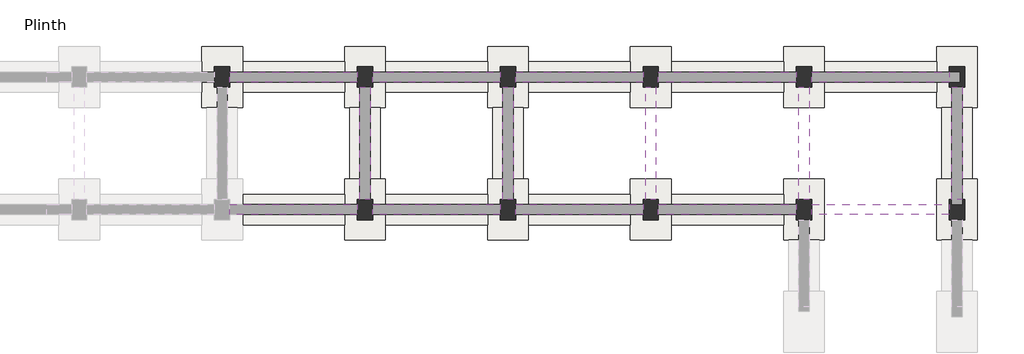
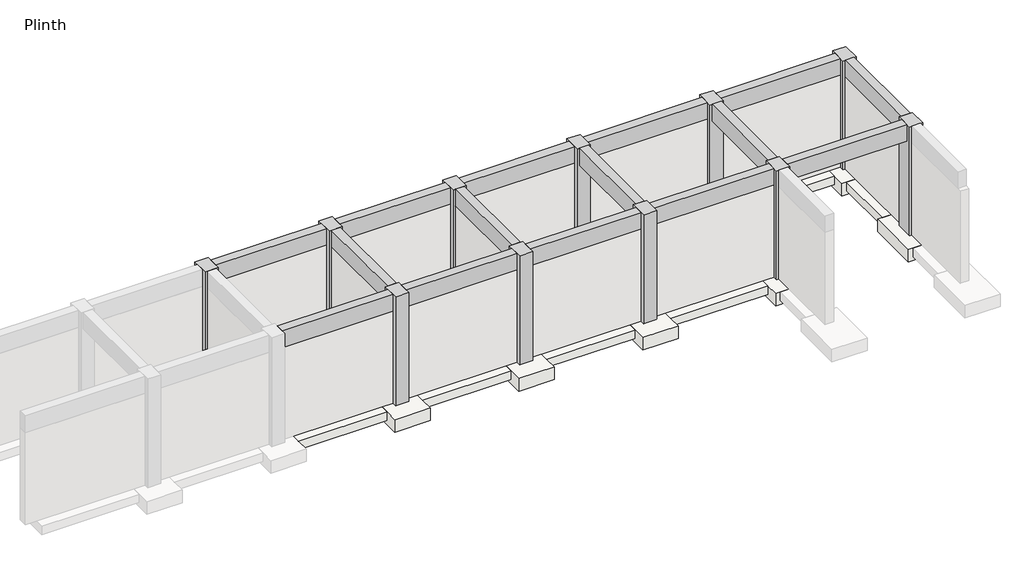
# One storey, part 3 of 3: 15 beams, 13 footings, 11 columns, 11 slabs.
"""IFC4 building model written with IfcOpenShell, lengths in millimetres."""

from ifc_helpers import new_model, si_unit, frame, origin, origin_with_axes, place, context, project, spatial, polyline, outline, extrude, faceted_brep, element, save

model = new_model("IFC4")

# Units and contexts
model_context = context("Model", 3, world=origin())
ifc_project = project(units=[si_unit("LENGTHUNIT", "METRE", prefix="MILLI")], contexts=[model_context])

# Site, building, storey
site = spatial("IfcSite", under=ifc_project)
building = spatial("IfcBuilding", under=site)
storey = spatial("IfcBuildingStorey", under=building, Name="Plinth", Elevation=304.8)

# Beams
placement = place(None, origin())
element("IfcBeam", 1, ObjectType="Concrete-Rectangular Beam : 12 x 24", at=placement, inside=storey, context=model_context, shape_type="SweptSolid", body=[
    extrude(outline(polyline([(-11678.9781752, 17712.9470864), (-11983.7781752, 17712.9470864), (-11983.7781752, 21065.7470864), (-11678.9781752, 21065.7470864), (-11678.9781752, 17712.9470864)])), frame((0.0, 0.0, 3657.6), z_axis=(0.0, 0.0, 1.0), x_axis=(1.0, 0.0, 0.0)), (0.0, 0.0, 1.0), 609.6),
])
element("IfcBeam", 2, ObjectType="Concrete-Rectangular Beam : 12 x 24", at=placement, inside=storey, context=model_context, shape_type="SweptSolid", body=[
    extrude(outline(polyline([(-7411.7781752, 21065.7470864), (-7106.9781752, 21065.7470864), (-7106.9781752, 17712.9470864), (-7411.7781752, 17712.9470864), (-7411.7781752, 21065.7470864)])), frame((0.0, 0.0, 3657.6), z_axis=(0.0, 0.0, 1.0), x_axis=(1.0, 0.0, 0.0)), (0.0, 0.0, 1.0), 609.6),
])
element("IfcBeam", 3, ObjectType="Concrete-Rectangular Beam : 12 x 24", at=placement, inside=storey, context=model_context, shape_type="SweptSolid", body=[
    extrude(outline(polyline([(-7030.7781752, 17255.7470864), (-7030.7781752, 17560.5470864), (-2915.9781752, 17560.5470864), (-2915.9781752, 17255.7470864), (-7030.7781752, 17255.7470864)])), frame((0.0, 0.0, 3657.6), z_axis=(0.0, 0.0, 1.0), x_axis=(1.0, 0.0, 0.0)), (0.0, 0.0, 1.0), 609.6),
])
element("IfcBeam", 4, ObjectType="Concrete-Rectangular Beam : 12 x 24", at=placement, inside=storey, context=model_context, shape_type="SweptSolid", body=[
    extrude(outline(polyline([(-20518.1781752, 21065.7470864), (-20213.3781752, 21065.7470864), (-20213.3781752, 17712.9470864), (-20518.1781752, 17712.9470864), (-20518.1781752, 21065.7470864)])), frame((0.0, 0.0, 3657.6), z_axis=(0.0, 0.0, 1.0), x_axis=(1.0, 0.0, 0.0)), (0.0, 0.0, 1.0), 609.6),
])
element("IfcBeam", 5, ObjectType="Concrete-Rectangular Beam : 12 x 24", at=placement, inside=storey, context=model_context, shape_type="SweptSolid", body=[
    extrude(outline(polyline([(-20137.1781752, 21218.1470864), (-20137.1781752, 21522.9470864), (-16327.1781752, 21522.9470864), (-16327.1781752, 21218.1470864), (-20137.1781752, 21218.1470864)])), frame((0.0, 0.0, 3657.6), z_axis=(0.0, 0.0, 1.0), x_axis=(1.0, 0.0, 0.0)), (0.0, 0.0, 1.0), 609.6),
])
element("IfcBeam", 6, ObjectType="Concrete-Rectangular Beam : 12 x 24", at=placement, inside=storey, context=model_context, shape_type="SweptSolid", body=[
    extrude(outline(polyline([(-15869.9781752, 21218.1470864), (-15869.9781752, 21522.9470864), (-12059.9781752, 21522.9470864), (-12059.9781752, 21218.1470864), (-15869.9781752, 21218.1470864)])), frame((0.0, 0.0, 3657.6), z_axis=(0.0, 0.0, 1.0), x_axis=(1.0, 0.0, 0.0)), (0.0, 0.0, 1.0), 609.6),
])
element("IfcBeam", 7, ObjectType="Concrete-Rectangular Beam : 12 x 24", at=placement, inside=storey, context=model_context, shape_type="SweptSolid", body=[
    extrude(outline(polyline([(-11602.7781752, 21218.1470864), (-11602.7781752, 21522.9470864), (-7487.9781752, 21522.9470864), (-7487.9781752, 21218.1470864), (-11602.7781752, 21218.1470864)])), frame((0.0, 0.0, 3657.6), z_axis=(0.0, 0.0, 1.0), x_axis=(1.0, 0.0, 0.0)), (0.0, 0.0, 1.0), 609.6),
])
element("IfcBeam", 8, ObjectType="Concrete-Rectangular Beam : 12 x 24", at=placement, inside=storey, context=model_context, shape_type="SweptSolid", body=[
    extrude(outline(polyline([(-7030.7781752, 21218.1470864), (-7030.7781752, 21522.9470864), (-2915.9781752, 21522.9470864), (-2915.9781752, 21218.1470864), (-7030.7781752, 21218.1470864)])), frame((0.0, 0.0, 3657.6), z_axis=(0.0, 0.0, 1.0), x_axis=(1.0, 0.0, 0.0)), (0.0, 0.0, 1.0), 609.6),
])
element("IfcBeam", 9, ObjectType="Concrete-Rectangular Beam : 12 x 24", at=placement, inside=storey, context=model_context, shape_type="SweptSolid", body=[
    extrude(outline(polyline([(-16250.9781752, 21065.7470864), (-15946.1781752, 21065.7470864), (-15946.1781752, 17712.9470864), (-16250.9781752, 17712.9470864), (-16250.9781752, 21065.7470864)])), frame((0.0, 0.0, 3657.6), z_axis=(0.0, 0.0, 1.0), x_axis=(1.0, 0.0, 0.0)), (0.0, 0.0, 1.0), 609.6),
])
element("IfcBeam", 10, ObjectType="Concrete-Rectangular Beam : 12 x 24", at=placement, inside=storey, context=model_context, shape_type="SweptSolid", body=[
    extrude(outline(polyline([(-2839.7781752, 21065.7470864), (-2534.9781752, 21065.7470864), (-2534.9781752, 17712.9470864), (-2839.7781752, 17712.9470864), (-2839.7781752, 21065.7470864)])), frame((0.0, 0.0, 3657.6), z_axis=(0.0, 0.0, 1.0), x_axis=(1.0, 0.0, 0.0)), (0.0, 0.0, 1.0), 609.6),
])
element("IfcBeam", 11, ObjectType="Concrete-Rectangular Beam : 12 x 24", at=placement, inside=storey, context=model_context, shape_type="SweptSolid", body=[
    extrude(outline(polyline([(-11602.7781752, 17255.7470864), (-11602.7781752, 17560.5470864), (-7487.9781752, 17560.5470864), (-7487.9781752, 17255.7470864), (-11602.7781752, 17255.7470864)])), frame((0.0, 0.0, 3657.6), z_axis=(0.0, 0.0, 1.0), x_axis=(1.0, 0.0, 0.0)), (0.0, 0.0, 1.0), 609.6),
])
element("IfcBeam", 12, ObjectType="Concrete-Rectangular Beam : 12 x 24", at=placement, inside=storey, context=model_context, shape_type="SweptSolid", body=[
    extrude(outline(polyline([(-20137.1781752, 17255.7470864), (-20137.1781752, 17560.5470864), (-16327.1781752, 17560.5470864), (-16327.1781752, 17255.7470864), (-20137.1781752, 17255.7470864)])), frame((0.0, 0.0, 3657.6), z_axis=(0.0, 0.0, 1.0), x_axis=(1.0, 0.0, 0.0)), (0.0, 0.0, 1.0), 609.6),
])
element("IfcBeam", 13, ObjectType="Concrete-Rectangular Beam : 12 x 24", at=placement, inside=storey, context=model_context, shape_type="SweptSolid", body=[
    extrude(outline(polyline([(-15869.9781752, 17255.7470864), (-15869.9781752, 17560.5470864), (-12059.9781752, 17560.5470864), (-12059.9781752, 17255.7470864), (-15869.9781752, 17255.7470864)])), frame((0.0, 0.0, 3657.6), z_axis=(0.0, 0.0, 1.0), x_axis=(1.0, 0.0, 0.0)), (0.0, 0.0, 1.0), 609.6),
])
element("IfcBeam", 14, ObjectType="Concrete-Rectangular Beam : 12 x 24", at=placement, inside=storey, context=model_context, shape_type="SweptSolid", body=[
    extrude(outline(polyline([(-24404.3781752, 21218.1470864), (-24404.3781752, 21522.9470864), (-20594.3781752, 21522.9470864), (-20594.3781752, 21218.1470864), (-24404.3781752, 21218.1470864)])), frame((0.0, 0.0, 3657.6), z_axis=(0.0, 0.0, 1.0), x_axis=(1.0, 0.0, 0.0)), (0.0, 0.0, 1.0), 609.6),
])
element("IfcBeam", 15, ObjectType="Concrete-Rectangular Beam : 12 x 24", at=placement, inside=storey, context=model_context, shape_type="SweptSolid", body=[
    extrude(outline(polyline([(-20594.3781752, 17560.5470864), (-20594.3781752, 17255.7470864), (-24404.3781752, 17255.7470864), (-24404.3781752, 17560.5470864), (-20594.3781752, 17560.5470864)])), frame((0.0, 0.0, 3657.6), z_axis=(0.0, 0.0, 1.0), x_axis=(1.0, 0.0, 0.0)), (0.0, 0.0, 1.0), 609.6),
])

# Columns
element("IfcColumn", 16, ObjectType="Concrete-Rectangular-Column : 18 x 24", at=placement, inside=storey, context=model_context, shape_type="Brep", body=[
    faceted_brep([(-20137.1781752, 21675.3470864, 304.8), (-20137.1781752, 21522.9470864, 304.8), (-20137.1781752, 21218.1470864, 304.8), (-20137.1781752, 21065.7470864, 304.8), (-20213.3781752, 21065.7470864, 304.8), (-20518.1781752, 21065.7470864, 304.8), (-20594.3781752, 21065.7470864, 304.8), (-20594.3781752, 21218.1470864, 304.8), (-20594.3781752, 21522.9470864, 304.8), (-20594.3781752, 21675.3470864, 304.8), (-20137.1781752, 21675.3470864, 4267.2), (-20137.1781752, 21065.7470864, 4267.2), (-20594.3781752, 21065.7470864, 4267.2), (-20594.3781752, 21675.3470864, 4267.2)], [[[0, 1, 2, 3, 4, 5, 6, 7, 8, 9]], [[10, 11, 3, 2, 1, 0]], [[11, 12, 6, 5, 4, 3]], [[12, 13, 9, 8, 7, 6]], [[13, 10, 0, 9]], [[10, 13, 12, 11]]]),
])
element("IfcColumn", 17, ObjectType="Concrete-Rectangular-Column : 18 x 24", at=placement, inside=storey, context=model_context, shape_type="Brep", body=[
    faceted_brep([(-15869.9781752, 21675.3470864, 304.8), (-15869.9781752, 21522.9470864, 304.8), (-15869.9781752, 21218.1470864, 304.8), (-15869.9781752, 21065.7470864, 304.8), (-15946.1781752, 21065.7470864, 304.8), (-16250.9781752, 21065.7470864, 304.8), (-16327.1781752, 21065.7470864, 304.8), (-16327.1781752, 21218.1470864, 304.8), (-16327.1781752, 21522.9470864, 304.8), (-16327.1781752, 21675.3470864, 304.8), (-15869.9781752, 21675.3470864, 4267.2), (-15869.9781752, 21065.7470864, 4267.2), (-16327.1781752, 21065.7470864, 4267.2), (-16327.1781752, 21675.3470864, 4267.2)], [[[0, 1, 2, 3, 4, 5, 6, 7, 8, 9]], [[10, 11, 3, 2, 1, 0]], [[11, 12, 6, 5, 4, 3]], [[12, 13, 9, 8, 7, 6]], [[13, 10, 0, 9]], [[10, 13, 12, 11]]]),
])
element("IfcColumn", 18, ObjectType="Concrete-Rectangular-Column : 18 x 24", at=placement, inside=storey, context=model_context, shape_type="Brep", body=[
    faceted_brep([(-11602.7781752, 21675.3470864, 304.8), (-11602.7781752, 21522.9470864, 304.8), (-11602.7781752, 21218.1470864, 304.8), (-11602.7781752, 21065.7470864, 304.8), (-12059.9781752, 21065.7470864, 304.8), (-12059.9781752, 21218.1470864, 304.8), (-12059.9781752, 21522.9470864, 304.8), (-12059.9781752, 21675.3470864, 304.8), (-11602.7781752, 21675.3470864, 4267.2), (-11602.7781752, 21065.7470864, 4267.2), (-12059.9781752, 21065.7470864, 4267.2), (-12059.9781752, 21675.3470864, 4267.2)], [[[0, 1, 2, 3, 4, 5, 6, 7]], [[8, 9, 3, 2, 1, 0]], [[9, 10, 4, 3]], [[10, 11, 7, 6, 5, 4]], [[11, 8, 0, 7]], [[8, 11, 10, 9]]]),
])
element("IfcColumn", 19, ObjectType="Concrete-Rectangular-Column : 18 x 24", at=placement, inside=storey, context=model_context, shape_type="Brep", body=[
    faceted_brep([(-7030.7781752, 21675.3470864, 304.8), (-7030.7781752, 21522.9470864, 304.8), (-7030.7781752, 21218.1470864, 304.8), (-7030.7781752, 21065.7470864, 304.8), (-7487.9781752, 21065.7470864, 304.8), (-7487.9781752, 21218.1470864, 304.8), (-7487.9781752, 21522.9470864, 304.8), (-7487.9781752, 21675.3470864, 304.8), (-7030.7781752, 21675.3470864, 4267.2), (-7030.7781752, 21065.7470864, 4267.2), (-7487.9781752, 21065.7470864, 4267.2), (-7487.9781752, 21675.3470864, 4267.2)], [[[0, 1, 2, 3, 4, 5, 6, 7]], [[8, 9, 3, 2, 1, 0]], [[9, 10, 4, 3]], [[10, 11, 7, 6, 5, 4]], [[11, 8, 0, 7]], [[8, 11, 10, 9]]]),
])
element("IfcColumn", 20, ObjectType="Concrete-Rectangular-Column : 18 x 24", at=placement, inside=storey, context=model_context, shape_type="Brep", body=[
    faceted_brep([(-2458.7781752, 21675.3470864, 304.8), (-2458.7781752, 21065.7470864, 304.8), (-2534.9781752, 21065.7470864, 304.8), (-2839.7781752, 21065.7470864, 304.8), (-2915.9781752, 21065.7470864, 304.8), (-2915.9781752, 21218.1470864, 304.8), (-2611.1781752, 21218.1470864, 304.8), (-2611.1781752, 21522.9470864, 304.8), (-2915.9781752, 21522.9470864, 304.8), (-2915.9781752, 21675.3470864, 304.8), (-2458.7781752, 21675.3470864, 4267.2), (-2458.7781752, 21065.7470864, 4267.2), (-2915.9781752, 21065.7470864, 4267.2), (-2915.9781752, 21675.3470864, 4267.2), (-2915.9781752, 21522.9470864, 3657.6), (-2915.9781752, 21218.1470864, 3657.6), (-2611.1781752, 21218.1470864, 3657.6), (-2611.1781752, 21522.9470864, 3657.6)], [[[0, 1, 2, 3, 4, 5, 6, 7, 8, 9]], [[1, 0, 10, 11]], [[4, 3, 2, 1, 11, 12]], [[4, 12, 13, 9, 8, 14, 15, 5]], [[0, 9, 13, 10]], [[11, 10, 13, 12]], [[16, 6, 5, 15]], [[7, 17, 14, 8]], [[6, 16, 17, 7]], [[17, 16, 15, 14]]]),
])
element("IfcColumn", 21, ObjectType="Concrete-Rectangular-Column : 18 x 24", at=placement, inside=storey, context=model_context, shape_type="Brep", body=[
    faceted_brep([(-20137.1781752, 17712.9470864, 304.8), (-20137.1781752, 17560.5470864, 304.8), (-20137.1781752, 17255.7470864, 304.8), (-20137.1781752, 17103.3470864, 304.8), (-20594.3781752, 17103.3470864, 304.8), (-20594.3781752, 17255.7470864, 304.8), (-20594.3781752, 17560.5470864, 304.8), (-20594.3781752, 17712.9470864, 304.8), (-20518.1781752, 17712.9470864, 304.8), (-20213.3781752, 17712.9470864, 304.8), (-20137.1781752, 17712.9470864, 4267.2), (-20137.1781752, 17103.3470864, 4267.2), (-20594.3781752, 17103.3470864, 4267.2), (-20594.3781752, 17712.9470864, 4267.2)], [[[0, 1, 2, 3, 4, 5, 6, 7, 8, 9]], [[10, 11, 3, 2, 1, 0]], [[11, 12, 4, 3]], [[12, 13, 7, 6, 5, 4]], [[13, 10, 0, 9, 8, 7]], [[10, 13, 12, 11]]]),
])
element("IfcColumn", 22, ObjectType="Concrete-Rectangular-Column : 18 x 24", at=placement, inside=storey, context=model_context, shape_type="Brep", body=[
    faceted_brep([(-15869.9781752, 17712.9470864, 304.8), (-15869.9781752, 17560.5470864, 304.8), (-15869.9781752, 17255.7470864, 304.8), (-15869.9781752, 17103.3470864, 304.8), (-16327.1781752, 17103.3470864, 304.8), (-16327.1781752, 17255.7470864, 304.8), (-16327.1781752, 17560.5470864, 304.8), (-16327.1781752, 17712.9470864, 304.8), (-16250.9781752, 17712.9470864, 304.8), (-15946.1781752, 17712.9470864, 304.8), (-15869.9781752, 17712.9470864, 4267.2), (-15869.9781752, 17103.3470864, 4267.2), (-16327.1781752, 17103.3470864, 4267.2), (-16327.1781752, 17712.9470864, 4267.2)], [[[0, 1, 2, 3, 4, 5, 6, 7, 8, 9]], [[10, 11, 3, 2, 1, 0]], [[11, 12, 4, 3]], [[12, 13, 7, 6, 5, 4]], [[13, 10, 0, 9, 8, 7]], [[10, 13, 12, 11]]]),
])
element("IfcColumn", 23, ObjectType="Concrete-Rectangular-Column : 18 x 24", at=placement, inside=storey, context=model_context, shape_type="Brep", body=[
    faceted_brep([(-11602.7781752, 17712.9470864, 304.8), (-11602.7781752, 17560.5470864, 304.8), (-11602.7781752, 17255.7470864, 304.8), (-11602.7781752, 17103.3470864, 304.8), (-12059.9781752, 17103.3470864, 304.8), (-12059.9781752, 17255.7470864, 304.8), (-12059.9781752, 17560.5470864, 304.8), (-12059.9781752, 17712.9470864, 304.8), (-11602.7781752, 17712.9470864, 4267.2), (-11602.7781752, 17103.3470864, 4267.2), (-12059.9781752, 17103.3470864, 4267.2), (-12059.9781752, 17712.9470864, 4267.2)], [[[0, 1, 2, 3, 4, 5, 6, 7]], [[8, 9, 3, 2, 1, 0]], [[9, 10, 4, 3]], [[10, 11, 7, 6, 5, 4]], [[11, 8, 0, 7]], [[8, 11, 10, 9]]]),
])
element("IfcColumn", 24, ObjectType="Concrete-Rectangular-Column : 18 x 24", at=placement, inside=storey, context=model_context, shape_type="Brep", body=[
    faceted_brep([(-7030.7781752, 17712.9470864, 304.8), (-7030.7781752, 17103.3470864, 304.8), (-7106.9781752, 17103.3470864, 304.8), (-7411.7781752, 17103.3470864, 304.8), (-7487.9781752, 17103.3470864, 304.8), (-7487.9781752, 17255.7470864, 304.8), (-7487.9781752, 17560.5470864, 304.8), (-7487.9781752, 17712.9470864, 304.8), (-7030.7781752, 17712.9470864, 4267.2), (-7030.7781752, 17103.3470864, 4267.2), (-7487.9781752, 17103.3470864, 4267.2), (-7487.9781752, 17712.9470864, 4267.2)], [[[0, 1, 2, 3, 4, 5, 6, 7]], [[8, 9, 1, 0]], [[9, 10, 4, 3, 2, 1]], [[10, 11, 7, 6, 5, 4]], [[11, 8, 0, 7]], [[8, 11, 10, 9]]]),
])
element("IfcColumn", 25, ObjectType="Concrete-Rectangular-Column : 18 x 24", at=placement, inside=storey, context=model_context, shape_type="Brep", body=[
    faceted_brep([(-2458.7781752, 17712.9470864, 304.8), (-2458.7781752, 17103.3470864, 304.8), (-2534.9781752, 17103.3470864, 304.8), (-2839.7781752, 17103.3470864, 304.8), (-2915.9781752, 17103.3470864, 304.8), (-2915.9781752, 17712.9470864, 304.8), (-2839.7781752, 17712.9470864, 304.8), (-2839.7781752, 17560.5470864, 304.8), (-2534.9781752, 17560.5470864, 304.8), (-2534.9781752, 17712.9470864, 304.8), (-2458.7781752, 17712.9470864, 4267.2), (-2458.7781752, 17103.3470864, 4267.2), (-2915.9781752, 17103.3470864, 4267.2), (-2915.9781752, 17712.9470864, 4267.2), (-2534.9781752, 17712.9470864, 3657.6), (-2839.7781752, 17712.9470864, 3657.6), (-2839.7781752, 17560.5470864, 3657.6), (-2534.9781752, 17560.5470864, 3657.6)], [[[0, 1, 2, 3, 4, 5, 6, 7, 8, 9]], [[1, 0, 10, 11]], [[4, 3, 2, 1, 11, 12]], [[5, 4, 12, 13]], [[10, 0, 9, 14, 15, 6, 5, 13]], [[11, 10, 13, 12]], [[16, 7, 6, 15]], [[17, 16, 15, 14]], [[17, 8, 7, 16]], [[8, 17, 14, 9]]]),
])
element("IfcColumn", 26, ObjectType="Concrete-Rectangular-Column : 18 x 24", at=placement, inside=storey, context=model_context, shape_type="Brep", body=[
    faceted_brep([(-24861.5781752, 21675.3470864, 304.8), (-24404.3781752, 21675.3470864, 304.8), (-24404.3781752, 21522.9470864, 304.8), (-24404.3781752, 21218.1470864, 304.8), (-24404.3781752, 21065.7470864, 304.8), (-24480.5781752, 21065.7470864, 304.8), (-24785.3781752, 21065.7470864, 304.8), (-24861.5781752, 21065.7470864, 304.8), (-24861.5781752, 21218.1470864, 304.8), (-24861.5781752, 21522.9470864, 304.8), (-24861.5781752, 21675.3470864, 4267.2), (-24861.5781752, 21065.7470864, 4267.2), (-24404.3781752, 21065.7470864, 4267.2), (-24404.3781752, 21675.3470864, 4267.2)], [[[0, 1, 2, 3, 4, 5, 6, 7, 8, 9]], [[10, 0, 9, 8, 7, 11]], [[11, 7, 6, 5, 4, 12]], [[12, 4, 3, 2, 1, 13]], [[13, 1, 0, 10]], [[10, 11, 12, 13]]]),
])

# Footings
element("IfcFooting", 27, ObjectType="Bearing Footing - 36\" x 12\"", at=placement, inside=storey, context=model_context, shape_type="SweptSolid", body=[
    extrude(outline(polyline([(-19756.1781752, 20913.3470864), (-19756.1781752, 21827.7470864), (-16708.1781752, 21827.7470864), (-16708.1781752, 20913.3470864), (-19756.1781752, 20913.3470864)])), origin_with_axes(), (0.0, 0.0, 1.0), 304.8),
])
element("IfcFooting", 28, ObjectType="Bearing Footing - 36\" x 12\"", at=placement, inside=storey, context=model_context, shape_type="SweptSolid", body=[
    extrude(outline(polyline([(-15488.9781752, 20913.3470864), (-15488.9781752, 21827.7470864), (-12440.9781752, 21827.7470864), (-12440.9781752, 20913.3470864), (-15488.9781752, 20913.3470864)])), origin_with_axes(), (0.0, 0.0, 1.0), 304.8),
])
element("IfcFooting", 29, ObjectType="Bearing Footing - 36\" x 12\"", at=placement, inside=storey, context=model_context, shape_type="SweptSolid", body=[
    extrude(outline(polyline([(-11221.7781752, 20913.3470864), (-11221.7781752, 21827.7470864), (-7868.9781752, 21827.7470864), (-7868.9781752, 20913.3470864), (-11221.7781752, 20913.3470864)])), origin_with_axes(), (0.0, 0.0, 1.0), 304.8),
])
element("IfcFooting", 30, ObjectType="Bearing Footing - 36\" x 12\"", at=placement, inside=storey, context=model_context, shape_type="SweptSolid", body=[
    extrude(outline(polyline([(-6649.7781752, 20913.3470864), (-6649.7781752, 21827.7470864), (-3296.9781752, 21827.7470864), (-3296.9781752, 20913.3470864), (-6649.7781752, 20913.3470864)])), origin_with_axes(), (0.0, 0.0, 1.0), 304.8),
])
element("IfcFooting", 31, ObjectType="Bearing Footing - 36\" x 12\"", at=placement, inside=storey, context=model_context, shape_type="SweptSolid", body=[
    extrude(outline(polyline([(-3144.5781752, 20456.1470864), (-2230.1781752, 20456.1470864), (-2230.1781752, 18322.5470864), (-3144.5781752, 18322.5470864), (-3144.5781752, 20456.1470864)])), origin_with_axes(), (0.0, 0.0, 1.0), 304.8),
])
element("IfcFooting", 32, ObjectType="Bearing Footing - 36\" x 12\"", at=placement, inside=storey, context=model_context, shape_type="SweptSolid", body=[
    extrude(outline(polyline([(-11221.7781752, 16950.9470864), (-11221.7781752, 17865.3470864), (-7868.9781752, 17865.3470864), (-7868.9781752, 16950.9470864), (-11221.7781752, 16950.9470864)])), origin_with_axes(), (0.0, 0.0, 1.0), 304.8),
])
element("IfcFooting", 33, ObjectType="Bearing Footing - 36\" x 12\"", at=placement, inside=storey, context=model_context, shape_type="SweptSolid", body=[
    extrude(outline(polyline([(-15488.9781752, 16950.9470864), (-15488.9781752, 17865.3470864), (-12440.9781752, 17865.3470864), (-12440.9781752, 16950.9470864), (-15488.9781752, 16950.9470864)])), origin_with_axes(), (0.0, 0.0, 1.0), 304.8),
])
element("IfcFooting", 34, ObjectType="Bearing Footing - 36\" x 12\"", at=placement, inside=storey, context=model_context, shape_type="SweptSolid", body=[
    extrude(outline(polyline([(-16555.7781752, 20456.1470864), (-15641.3781752, 20456.1470864), (-15641.3781752, 18322.5470864), (-16555.7781752, 18322.5470864), (-16555.7781752, 20456.1470864)])), origin_with_axes(), (0.0, 0.0, 1.0), 304.8),
])
element("IfcFooting", 35, ObjectType="Bearing Footing - 36\" x 12\"", at=placement, inside=storey, context=model_context, shape_type="SweptSolid", body=[
    extrude(outline(polyline([(-16708.1781752, 17865.3470864), (-16708.1781752, 16950.9470864), (-19756.1781752, 16950.9470864), (-19756.1781752, 17865.3470864), (-16708.1781752, 17865.3470864)])), origin_with_axes(), (0.0, 0.0, 1.0), 304.8),
])
element("IfcFooting", 36, ObjectType="Bearing Footing - 36\" x 12\"", at=placement, inside=storey, context=model_context, shape_type="SweptSolid", body=[
    extrude(outline(polyline([(-20822.9781752, 20456.1470864), (-19908.5781752, 20456.1470864), (-19908.5781752, 18322.5470864), (-20822.9781752, 18322.5470864), (-20822.9781752, 20456.1470864)])), origin_with_axes(), (0.0, 0.0, 1.0), 304.8),
])
element("IfcFooting", 37, ObjectType="Bearing Footing - 36\" x 12\"", at=placement, inside=storey, context=model_context, shape_type="SweptSolid", body=[
    extrude(outline(polyline([(-20975.3781752, 21827.7470864), (-20975.3781752, 20913.3470864), (-24023.3781752, 20913.3470864), (-24023.3781752, 21827.7470864), (-20975.3781752, 21827.7470864)])), origin_with_axes(), (0.0, 0.0, 1.0), 304.8),
])
element("IfcFooting", 38, ObjectType="Bearing Footing - 36\" x 12\"", at=placement, inside=storey, context=model_context, shape_type="SweptSolid", body=[
    extrude(outline(polyline([(-20975.3781752, 17865.3470864), (-20975.3781752, 16950.9470864), (-24023.3781752, 16950.9470864), (-24023.3781752, 17865.3470864), (-20975.3781752, 17865.3470864)])), origin_with_axes(), (0.0, 0.0, 1.0), 304.8),
])
element("IfcFooting", 39, ObjectType="Bearing Footing - 36\" x 12\"", at=placement, inside=storey, context=model_context, shape_type="SweptSolid", body=[
    extrude(outline(polyline([(-20822.9781752, 20456.1470864), (-19908.5781752, 20456.1470864), (-19908.5781752, 18322.5470864), (-20822.9781752, 18322.5470864), (-20822.9781752, 20456.1470864)])), origin_with_axes(), (0.0, 0.0, 1.0), 304.8),
])

# Slabs
element("IfcSlab", 40, ObjectType="Footing-Rectangular : 72\" x 48\" x 18\"", at=placement, inside=storey, context=model_context, shape_type="Brep", body=[
    faceted_brep([(-19756.1781752, 22284.9470864, 304.8), (-20975.3781752, 22284.9470864, 304.8), (-20975.3781752, 21827.7470864, 304.8), (-20975.3781752, 20913.3470864, 304.8), (-20975.3781752, 20456.1470864, 304.8), (-20822.9781752, 20456.1470864, 304.8), (-19908.5781752, 20456.1470864, 304.8), (-19756.1781752, 20456.1470864, 304.8), (-19756.1781752, 20913.3470864, 304.8), (-19756.1781752, 21827.7470864, 304.8), (-19756.1781752, 22284.9470864, -152.4), (-19756.1781752, 20456.1470864, -152.4), (-20975.3781752, 20456.1470864, -152.4), (-20975.3781752, 22284.9470864, -152.4)], [[[0, 1, 2, 3, 4, 5, 6, 7, 8, 9]], [[10, 11, 12, 13]], [[1, 0, 10, 13]], [[4, 3, 2, 1, 13, 12]], [[7, 6, 5, 4, 12, 11]], [[0, 9, 8, 7, 11, 10]]]),
])
element("IfcSlab", 41, ObjectType="Footing-Rectangular : 72\" x 48\" x 18\"", at=placement, inside=storey, context=model_context, shape_type="Brep", body=[
    faceted_brep([(-16708.1781752, 20456.1470864, 304.8), (-16555.7781752, 20456.1470864, 304.8), (-15641.3781752, 20456.1470864, 304.8), (-15488.9781752, 20456.1470864, 304.8), (-15488.9781752, 20913.3470864, 304.8), (-15488.9781752, 21827.7470864, 304.8), (-15488.9781752, 22284.9470864, 304.8), (-16708.1781752, 22284.9470864, 304.8), (-16708.1781752, 21827.7470864, 304.8), (-16708.1781752, 20913.3470864, 304.8), (-16708.1781752, 20456.1470864, -152.4), (-16708.1781752, 22284.9470864, -152.4), (-15488.9781752, 22284.9470864, -152.4), (-15488.9781752, 20456.1470864, -152.4)], [[[0, 1, 2, 3, 4, 5, 6, 7, 8, 9]], [[10, 11, 12, 13]], [[3, 2, 1, 0, 10, 13]], [[6, 5, 4, 3, 13, 12]], [[7, 6, 12, 11]], [[0, 9, 8, 7, 11, 10]]]),
])
element("IfcSlab", 42, ObjectType="Footing-Rectangular : 72\" x 48\" x 18\"", at=placement, inside=storey, context=model_context, shape_type="Brep", body=[
    faceted_brep([(-12440.9781752, 20456.1470864, 304.8), (-11221.7781752, 20456.1470864, 304.8), (-11221.7781752, 20913.3470864, 304.8), (-11221.7781752, 21827.7470864, 304.8), (-11221.7781752, 22284.9470864, 304.8), (-12440.9781752, 22284.9470864, 304.8), (-12440.9781752, 21827.7470864, 304.8), (-12440.9781752, 20913.3470864, 304.8), (-12440.9781752, 20456.1470864, -152.4), (-12440.9781752, 22284.9470864, -152.4), (-11221.7781752, 22284.9470864, -152.4), (-11221.7781752, 20456.1470864, -152.4)], [[[0, 1, 2, 3, 4, 5, 6, 7]], [[8, 9, 10, 11]], [[1, 0, 8, 11]], [[4, 3, 2, 1, 11, 10]], [[5, 4, 10, 9]], [[0, 7, 6, 5, 9, 8]]]),
])
element("IfcSlab", 43, ObjectType="Footing-Rectangular : 72\" x 48\" x 18\"", at=placement, inside=storey, context=model_context, shape_type="Brep", body=[
    faceted_brep([(-7868.9781752, 20456.1470864, 304.8), (-6649.7781752, 20456.1470864, 304.8), (-6649.7781752, 20913.3470864, 304.8), (-6649.7781752, 21827.7470864, 304.8), (-6649.7781752, 22284.9470864, 304.8), (-7868.9781752, 22284.9470864, 304.8), (-7868.9781752, 21827.7470864, 304.8), (-7868.9781752, 20913.3470864, 304.8), (-7868.9781752, 20456.1470864, -152.4), (-7868.9781752, 22284.9470864, -152.4), (-6649.7781752, 22284.9470864, -152.4), (-6649.7781752, 20456.1470864, -152.4)], [[[0, 1, 2, 3, 4, 5, 6, 7]], [[8, 9, 10, 11]], [[1, 0, 8, 11]], [[4, 3, 2, 1, 11, 10]], [[5, 4, 10, 9]], [[0, 7, 6, 5, 9, 8]]]),
])
element("IfcSlab", 44, ObjectType="Footing-Rectangular : 72\" x 48\" x 18\"", at=placement, inside=storey, context=model_context, shape_type="Brep", body=[
    faceted_brep([(-3296.9781752, 20456.1470864, 304.8), (-3144.5781752, 20456.1470864, 304.8), (-2230.1781752, 20456.1470864, 304.8), (-2077.7781752, 20456.1470864, 304.8), (-2077.7781752, 22284.9470864, 304.8), (-3296.9781752, 22284.9470864, 304.8), (-3296.9781752, 21827.7470864, 304.8), (-3296.9781752, 20913.3470864, 304.8), (-3296.9781752, 20456.1470864, -152.4), (-3296.9781752, 22284.9470864, -152.4), (-2077.7781752, 22284.9470864, -152.4), (-2077.7781752, 20456.1470864, -152.4)], [[[0, 1, 2, 3, 4, 5, 6, 7]], [[8, 9, 10, 11]], [[3, 2, 1, 0, 8, 11]], [[4, 3, 11, 10]], [[5, 4, 10, 9]], [[0, 7, 6, 5, 9, 8]]]),
])
element("IfcSlab", 45, ObjectType="Footing-Rectangular : 72\" x 48\" x 18\"", at=placement, inside=storey, context=model_context, shape_type="Brep", body=[
    faceted_brep([(-16708.1781752, 16493.7470864, 304.8), (-15488.9781752, 16493.7470864, 304.8), (-15488.9781752, 16950.9470864, 304.8), (-15488.9781752, 17865.3470864, 304.8), (-15488.9781752, 18322.5470864, 304.8), (-15641.3781752, 18322.5470864, 304.8), (-16555.7781752, 18322.5470864, 304.8), (-16708.1781752, 18322.5470864, 304.8), (-16708.1781752, 17865.3470864, 304.8), (-16708.1781752, 16950.9470864, 304.8), (-16708.1781752, 16493.7470864, -152.4), (-16708.1781752, 18322.5470864, -152.4), (-15488.9781752, 18322.5470864, -152.4), (-15488.9781752, 16493.7470864, -152.4)], [[[0, 1, 2, 3, 4, 5, 6, 7, 8, 9]], [[10, 11, 12, 13]], [[1, 0, 10, 13]], [[4, 3, 2, 1, 13, 12]], [[7, 6, 5, 4, 12, 11]], [[0, 9, 8, 7, 11, 10]]]),
])
element("IfcSlab", 46, ObjectType="Footing-Rectangular : 72\" x 48\" x 18\"", at=placement, inside=storey, context=model_context, shape_type="Brep", body=[
    faceted_brep([(-12440.9781752, 16493.7470864, 304.8), (-11221.7781752, 16493.7470864, 304.8), (-11221.7781752, 16950.9470864, 304.8), (-11221.7781752, 17865.3470864, 304.8), (-11221.7781752, 18322.5470864, 304.8), (-12440.9781752, 18322.5470864, 304.8), (-12440.9781752, 17865.3470864, 304.8), (-12440.9781752, 16950.9470864, 304.8), (-12440.9781752, 16493.7470864, -152.4), (-12440.9781752, 18322.5470864, -152.4), (-11221.7781752, 18322.5470864, -152.4), (-11221.7781752, 16493.7470864, -152.4)], [[[0, 1, 2, 3, 4, 5, 6, 7]], [[8, 9, 10, 11]], [[1, 0, 8, 11]], [[4, 3, 2, 1, 11, 10]], [[5, 4, 10, 9]], [[0, 7, 6, 5, 9, 8]]]),
])
element("IfcSlab", 47, ObjectType="Footing-Rectangular : 72\" x 48\" x 18\"", at=placement, inside=storey, context=model_context, shape_type="Brep", body=[
    faceted_brep([(-7868.9781752, 16493.7470864, 304.8), (-7716.5781752, 16493.7470864, 304.8), (-6802.1781752, 16493.7470864, 304.8), (-6649.7781752, 16493.7470864, 304.8), (-6649.7781752, 18322.5470864, 304.8), (-7868.9781752, 18322.5470864, 304.8), (-7868.9781752, 17865.3470864, 304.8), (-7868.9781752, 16950.9470864, 304.8), (-7868.9781752, 16493.7470864, -152.4), (-7868.9781752, 18322.5470864, -152.4), (-6649.7781752, 18322.5470864, -152.4), (-6649.7781752, 16493.7470864, -152.4)], [[[0, 1, 2, 3, 4, 5, 6, 7]], [[8, 9, 10, 11]], [[3, 2, 1, 0, 8, 11]], [[4, 3, 11, 10]], [[5, 4, 10, 9]], [[0, 7, 6, 5, 9, 8]]]),
])
element("IfcSlab", 48, ObjectType="Footing-Rectangular : 72\" x 48\" x 18\"", at=placement, inside=storey, context=model_context, shape_type="Brep", body=[
    faceted_brep([(-3296.9781752, 16493.7470864, 304.8), (-3144.5781752, 16493.7470864, 304.8), (-2230.1781752, 16493.7470864, 304.8), (-2077.7781752, 16493.7470864, 304.8), (-2077.7781752, 18322.5470864, 304.8), (-2230.1781752, 18322.5470864, 304.8), (-3144.5781752, 18322.5470864, 304.8), (-3296.9781752, 18322.5470864, 304.8), (-3296.9781752, 16493.7470864, -152.4), (-3296.9781752, 18322.5470864, -152.4), (-2077.7781752, 18322.5470864, -152.4), (-2077.7781752, 16493.7470864, -152.4)], [[[0, 1, 2, 3, 4, 5, 6, 7]], [[8, 9, 10, 11]], [[3, 2, 1, 0, 8, 11]], [[4, 3, 11, 10]], [[7, 6, 5, 4, 10, 9]], [[0, 7, 9, 8]]]),
])
element("IfcSlab", 49, ObjectType="Footing-Rectangular : 72\" x 48\" x 18\"", at=placement, inside=storey, context=model_context, shape_type="Brep", body=[
    faceted_brep([(-20975.3781752, 16493.7470864, 304.8), (-19756.1781752, 16493.7470864, 304.8), (-19756.1781752, 16950.9470864, 304.8), (-19756.1781752, 17865.3470864, 304.8), (-19756.1781752, 18322.5470864, 304.8), (-19908.5781752, 18322.5470864, 304.8), (-20822.9781752, 18322.5470864, 304.8), (-20975.3781752, 18322.5470864, 304.8), (-20975.3781752, 17865.3470864, 304.8), (-20975.3781752, 16950.9470864, 304.8), (-20975.3781752, 16493.7470864, -152.4), (-20975.3781752, 18322.5470864, -152.4), (-19756.1781752, 18322.5470864, -152.4), (-19756.1781752, 16493.7470864, -152.4)], [[[0, 1, 2, 3, 4, 5, 6, 7, 8, 9]], [[10, 11, 12, 13]], [[1, 0, 10, 13]], [[4, 3, 2, 1, 13, 12]], [[7, 6, 5, 4, 12, 11]], [[0, 9, 8, 7, 11, 10]]]),
])
element("IfcSlab", 50, ObjectType="Footing-Rectangular : 72\" x 48\" x 18\"", at=placement, inside=storey, context=model_context, shape_type="Brep", body=[
    faceted_brep([(-24023.3781752, 20456.1470864, 304.8), (-24023.3781752, 20913.3470864, 304.8), (-24023.3781752, 21827.7470864, 304.8), (-24023.3781752, 22284.9470864, 304.8), (-25242.5781752, 22284.9470864, 304.8), (-25242.5781752, 21827.7470864, 304.8), (-25242.5781752, 20913.3470864, 304.8), (-25242.5781752, 20456.1470864, 304.8), (-25090.1781752, 20456.1470864, 304.8), (-24175.7781752, 20456.1470864, 304.8), (-24023.3781752, 20456.1470864, -152.4), (-25242.5781752, 20456.1470864, -152.4), (-25242.5781752, 22284.9470864, -152.4), (-24023.3781752, 22284.9470864, -152.4)], [[[0, 1, 2, 3, 4, 5, 6, 7, 8, 9]], [[10, 11, 12, 13]], [[7, 11, 10, 0, 9, 8]], [[4, 12, 11, 7, 6, 5]], [[3, 13, 12, 4]], [[0, 10, 13, 3, 2, 1]]]),
])

save(model, "model.ifc")
